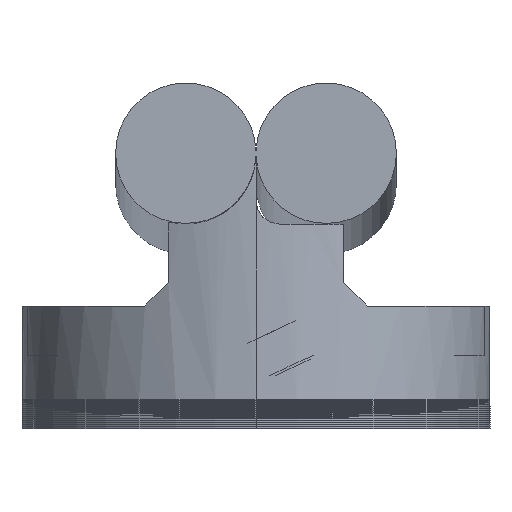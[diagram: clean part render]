
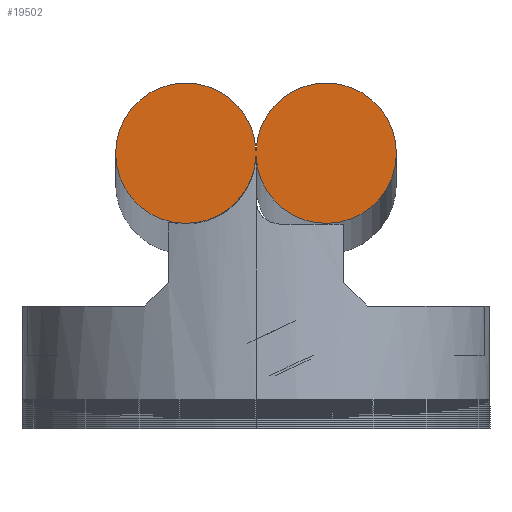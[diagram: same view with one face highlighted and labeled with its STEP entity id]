
A CAD part, top view. The second image highlights one B-rep face of the part: STEP entity #19502.
In plain terms, the highlighted planar face has unit normal (0, 0, 1).
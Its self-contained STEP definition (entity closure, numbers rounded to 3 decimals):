
#455 = VERTEX_POINT ( 'NONE', #28396 ) ;
#18264 = EDGE_CURVE ( 'NONE', #455, #50058, #30920, .T. ) ;
#18645 = EDGE_CURVE ( 'NONE', #24201, #455, #31071, .T. ) ;
#18662 = ORIENTED_EDGE ( 'NONE', *, *, #50211, .T. ) ;
#18673 = ORIENTED_EDGE ( 'NONE', *, *, #18264, .T. ) ;
#18682 = ORIENTED_EDGE ( 'NONE', *, *, #50072, .T. ) ;
#18877 = ORIENTED_EDGE ( 'NONE', *, *, #18645, .T. ) ;
#18990 = EDGE_LOOP ( 'NONE', ( #19010, #18877, #18673, #18682, #18662 ) ) ;
#19010 = ORIENTED_EDGE ( 'NONE', *, *, #24203, .T. ) ;
#19502 = ADVANCED_FACE ( 'NONE', ( #31190 ), #31283, .T. ) ;
#24201 = VERTEX_POINT ( 'NONE', #42578 ) ;
#24203 = EDGE_CURVE ( 'NONE', #24204, #24201, #42577, .T. ) ;
#24204 = VERTEX_POINT ( 'NONE', #42572 ) ;
#28396 = CARTESIAN_POINT ( 'NONE',  ( 0.005, 21.25, 0. ) ) ;
#30914 = DIRECTION ( 'NONE',  ( -1., 0., 0. ) ) ;
#30916 = VECTOR ( 'NONE', #30914, 1000. ) ;
#30918 = CARTESIAN_POINT ( 'NONE',  ( -0.005, 21.25, 0. ) ) ;
#30920 = LINE ( 'NONE', #30918, #30916 ) ;
#31064 = DIRECTION ( 'NONE',  ( 1., 0., 0. ) ) ;
#31067 = DIRECTION ( 'NONE',  ( 0., 0., 1. ) ) ;
#31069 = CARTESIAN_POINT ( 'NONE',  ( 6., 21., 0. ) ) ;
#31070 = AXIS2_PLACEMENT_3D ( 'NONE', #31069, #31067, #31064 ) ;
#31071 = CIRCLE ( 'NONE', #31070, 6. ) ;
#31190 = FACE_OUTER_BOUND ( 'NONE', #18990, .T. ) ;
#31275 = DIRECTION ( 'NONE',  ( 1., 0., 0. ) ) ;
#31276 = DIRECTION ( 'NONE',  ( 0., 0., 1. ) ) ;
#31277 = CARTESIAN_POINT ( 'NONE',  ( 6., 21., 0. ) ) ;
#31278 = AXIS2_PLACEMENT_3D ( 'NONE', #31277, #31276, #31275 ) ;
#31283 = PLANE ( 'NONE',  #31278 ) ;
#42572 = CARTESIAN_POINT ( 'NONE',  ( 0.005, 20.75, 0. ) ) ;
#42573 = DIRECTION ( 'NONE',  ( 1., 0., 0. ) ) ;
#42574 = DIRECTION ( 'NONE',  ( 0., 0., 1. ) ) ;
#42575 = CARTESIAN_POINT ( 'NONE',  ( 6., 21., 0. ) ) ;
#42576 = AXIS2_PLACEMENT_3D ( 'NONE', #42575, #42574, #42573 ) ;
#42577 = CIRCLE ( 'NONE', #42576, 6. ) ;
#42578 = CARTESIAN_POINT ( 'NONE',  ( 12., 21., 0. ) ) ;
#49949 = VERTEX_POINT ( 'NONE', #51174 ) ;
#50058 = VERTEX_POINT ( 'NONE', #51233 ) ;
#50072 = EDGE_CURVE ( 'NONE', #50058, #49949, #51231, .T. ) ;
#50211 = EDGE_CURVE ( 'NONE', #49949, #24204, #51221, .T. ) ;
#51174 = CARTESIAN_POINT ( 'NONE',  ( -0.005, 20.75, 0. ) ) ;
#51218 = DIRECTION ( 'NONE',  ( 1., 0., 0. ) ) ;
#51219 = VECTOR ( 'NONE', #51218, 1000. ) ;
#51220 = CARTESIAN_POINT ( 'NONE',  ( -0.005, 20.75, 0. ) ) ;
#51221 = LINE ( 'NONE', #51220, #51219 ) ;
#51227 = DIRECTION ( 'NONE',  ( -1., 0., 0. ) ) ;
#51228 = DIRECTION ( 'NONE',  ( 0., 0., 1. ) ) ;
#51229 = CARTESIAN_POINT ( 'NONE',  ( -6., 21., 0. ) ) ;
#51230 = AXIS2_PLACEMENT_3D ( 'NONE', #51229, #51228, #51227 ) ;
#51231 = CIRCLE ( 'NONE', #51230, 6. ) ;
#51233 = CARTESIAN_POINT ( 'NONE',  ( -0.005, 21.25, 0. ) ) ;
